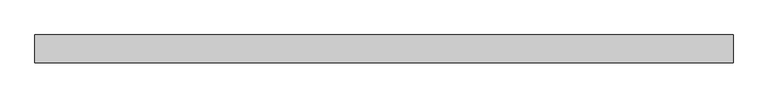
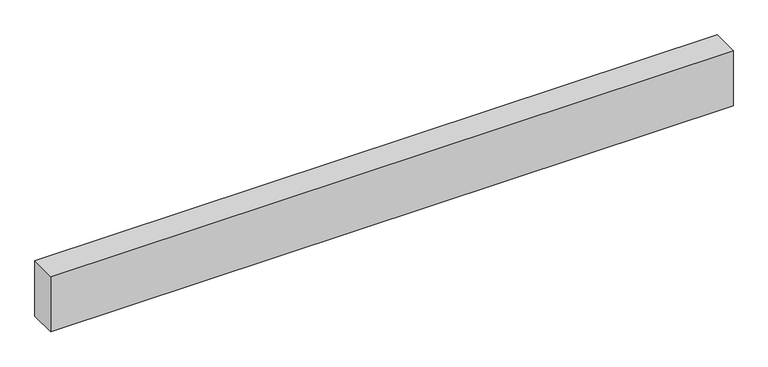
"""IFC4 building model written with IfcOpenShell, lengths in millimetres: proxy geometry."""

from ifc_helpers import new_model, si_unit, frame, origin, place, context, project, spatial, polyline, outline, extrude, source, transform, mapped, element, save


def structural_framing_dc82caa1(model_context):
    return source(origin(), model_context, "Body", "SweptSolid", [
        extrude(outline(polyline([(-1750.0, -70.0), (-1750.0, 70.0), (1750.0, 70.0), (1750.0, -70.0), (-1750.0, -70.0)])), frame((0.0, 0.0, -300.0), z_axis=(0.0, 0.0, 1.0), x_axis=(1.0, 0.0, 0.0)), (0.0, 0.0, 1.0), 300.0),
    ])


if __name__ == "__main__":
    model = new_model("IFC4")
    model_context = context("Model", 3, world=origin())
    ifc_project = project(units=[si_unit("LENGTHUNIT", "METRE", prefix="MILLI")], contexts=[model_context])
    site = spatial("IfcSite", under=ifc_project)
    building = spatial("IfcBuilding", under=site)
    placement = place(None, origin())
    structural_framing_shape = structural_framing_dc82caa1(model_context)
    element("IfcBuildingElementProxy", 1, Name="Structural Framing", at=placement, inside=building, context=model_context, shape_type="MappedRepresentation", body=[
        mapped(structural_framing_shape, transform((0.0, 0.0, 0.0), x_axis=(1.0, 0.0, 0.0), y_axis=(0.0, 1.0, 0.0), z_axis=(0.0, 0.0, 1.0))),
    ])
    save(model, "model.ifc")
